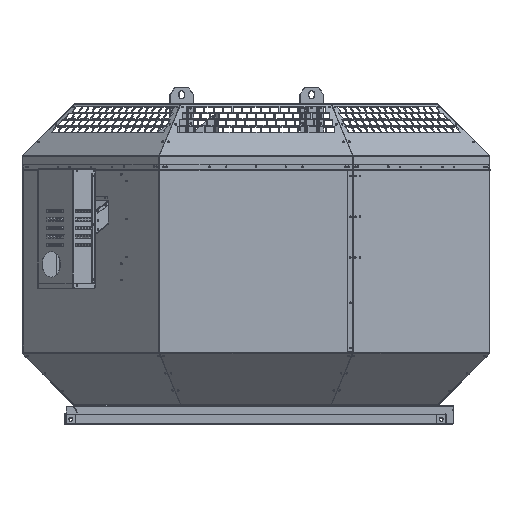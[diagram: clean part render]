
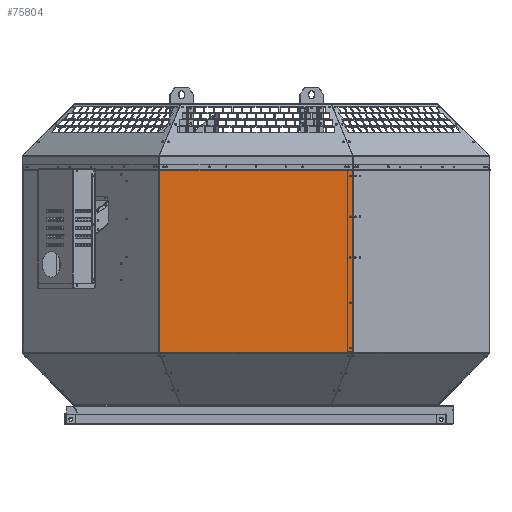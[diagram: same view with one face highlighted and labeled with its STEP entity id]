
A CAD part, top view. The second image highlights one B-rep face of the part: STEP entity #75804.
In plain terms, the highlighted planar face has unit normal (0, 0, 1).
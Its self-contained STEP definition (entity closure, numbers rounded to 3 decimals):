
#83 = DIRECTION ( 'NONE',  ( 0., 0., 1. ) ) ;
#692 = VECTOR ( 'NONE', #144474, 1000. ) ;
#3661 = LINE ( 'NONE', #111978, #35813 ) ;
#3892 = CARTESIAN_POINT ( 'NONE',  ( -233.948, 604.421, 568. ) ) ;
#4376 = EDGE_LOOP ( 'NONE', ( #25615, #13253 ) ) ;
#4803 = CIRCLE ( 'NONE', #145803, 2.1 ) ;
#6411 = FACE_BOUND ( 'NONE', #109905, .T. ) ;
#6716 = CARTESIAN_POINT ( 'NONE',  ( 228.859, 268.211, 568. ) ) ;
#7561 = DIRECTION ( 'NONE',  ( 0., 0., 1. ) ) ;
#8299 = VECTOR ( 'NONE', #109413, 1000. ) ;
#8872 = AXIS2_PLACEMENT_3D ( 'NONE', #110752, #38456, #122912 ) ;
#9408 = ORIENTED_EDGE ( 'NONE', *, *, #65530, .F. ) ;
#9708 = EDGE_LOOP ( 'NONE', ( #58290, #72708 ) ) ;
#10545 = CARTESIAN_POINT ( 'NONE',  ( 234.859, 148.421, 568. ) ) ;
#10885 = LINE ( 'NONE', #10545, #31606 ) ;
#11367 = VECTOR ( 'NONE', #125348, 1000. ) ;
#11505 = VERTEX_POINT ( 'NONE', #52681 ) ;
#12292 = CARTESIAN_POINT ( 'NONE',  ( 228.859, 158.421, 568. ) ) ;
#13253 = ORIENTED_EDGE ( 'NONE', *, *, #40362, .F. ) ;
#13587 = CARTESIAN_POINT ( 'NONE',  ( 234.859, 148.421, 568. ) ) ;
#14664 = ORIENTED_EDGE ( 'NONE', *, *, #132953, .F. ) ;
#15041 = CARTESIAN_POINT ( 'NONE',  ( 226.759, 158.421, 568. ) ) ;
#16184 = CIRCLE ( 'NONE', #76214, 2.1 ) ;
#17633 = EDGE_CURVE ( 'NONE', #100817, #46520, #35901, .T. ) ;
#22342 = CARTESIAN_POINT ( 'NONE',  ( -233.498, 590.421, 568. ) ) ;
#23972 = EDGE_LOOP ( 'NONE', ( #124236, #141816 ) ) ;
#25615 = ORIENTED_EDGE ( 'NONE', *, *, #120585, .F. ) ;
#26465 = CIRCLE ( 'NONE', #72974, 2.1 ) ;
#27049 = EDGE_CURVE ( 'NONE', #49948, #104010, #26465, .T. ) ;
#27836 = DIRECTION ( 'NONE',  ( 0., 0., 1. ) ) ;
#27947 = EDGE_CURVE ( 'NONE', #55866, #117818, #72796, .T. ) ;
#28156 = DIRECTION ( 'NONE',  ( 1., 0., 0. ) ) ;
#28438 = CARTESIAN_POINT ( 'NONE',  ( -233.948, 148.421, 568. ) ) ;
#28467 = EDGE_CURVE ( 'NONE', #31628, #41895, #31142, .T. ) ;
#29176 = VERTEX_POINT ( 'NONE', #15041 ) ;
#29282 = DIRECTION ( 'NONE',  ( 0., 0., 1. ) ) ;
#29784 = CIRCLE ( 'NONE', #35388, 2.1 ) ;
#30361 = EDGE_CURVE ( 'NONE', #29176, #88787, #37928, .T. ) ;
#30378 = VERTEX_POINT ( 'NONE', #120425 ) ;
#30529 = ORIENTED_EDGE ( 'NONE', *, *, #17633, .T. ) ;
#30983 = FACE_BOUND ( 'NONE', #138601, .T. ) ;
#31142 = CIRCLE ( 'NONE', #31556, 2.1 ) ;
#31556 = AXIS2_PLACEMENT_3D ( 'NONE', #100099, #27836, #124426 ) ;
#31606 = VECTOR ( 'NONE', #83309, 1000. ) ;
#31628 = VERTEX_POINT ( 'NONE', #32053 ) ;
#32053 = CARTESIAN_POINT ( 'NONE',  ( 226.759, 576.201, 568. ) ) ;
#35330 = DIRECTION ( 'NONE',  ( 1., 0., 0. ) ) ;
#35388 = AXIS2_PLACEMENT_3D ( 'NONE', #44950, #129445, #57137 ) ;
#35813 = VECTOR ( 'NONE', #51856, 1000. ) ;
#35901 = LINE ( 'NONE', #3892, #11367 ) ;
#37285 = EDGE_CURVE ( 'NONE', #144487, #100817, #96999, .T. ) ;
#37928 = CIRCLE ( 'NONE', #95331, 2.1 ) ;
#38456 = DIRECTION ( 'NONE',  ( 0., 0., 1. ) ) ;
#40362 = EDGE_CURVE ( 'NONE', #155794, #30378, #105919, .T. ) ;
#40387 = LINE ( 'NONE', #60926, #8299 ) ;
#41146 = VERTEX_POINT ( 'NONE', #118910 ) ;
#41307 = CARTESIAN_POINT ( 'NONE',  ( 228.859, 576.201, 568. ) ) ;
#41895 = VERTEX_POINT ( 'NONE', #121765 ) ;
#43451 = PLANE ( 'NONE',  #129401 ) ;
#43672 = EDGE_CURVE ( 'NONE', #117818, #55866, #4803, .T. ) ;
#44950 = CARTESIAN_POINT ( 'NONE',  ( 228.859, 378.001, 568. ) ) ;
#46057 = ORIENTED_EDGE ( 'NONE', *, *, #96294, .T. ) ;
#46520 = VERTEX_POINT ( 'NONE', #28438 ) ;
#47763 = DIRECTION ( 'NONE',  ( 0., 0., 1. ) ) ;
#48412 = CARTESIAN_POINT ( 'NONE',  ( 228.859, 158.421, 568. ) ) ;
#49948 = VERTEX_POINT ( 'NONE', #74335 ) ;
#50737 = AXIS2_PLACEMENT_3D ( 'NONE', #80449, #118935, #152860 ) ;
#51188 = EDGE_CURVE ( 'NONE', #41895, #31628, #76665, .T. ) ;
#51856 = DIRECTION ( 'NONE',  ( 0., -1., 0. ) ) ;
#51909 = CARTESIAN_POINT ( 'NONE',  ( 234.859, 590.428, 568. ) ) ;
#52681 = CARTESIAN_POINT ( 'NONE',  ( -233.498, 590.428, 568. ) ) ;
#55866 = VERTEX_POINT ( 'NONE', #155896 ) ;
#57137 = DIRECTION ( 'NONE',  ( 1., 0., 0. ) ) ;
#57232 = AXIS2_PLACEMENT_3D ( 'NONE', #41307, #47763, #35330 ) ;
#57282 = ORIENTED_EDGE ( 'NONE', *, *, #27049, .F. ) ;
#58290 = ORIENTED_EDGE ( 'NONE', *, *, #27947, .F. ) ;
#59060 = CARTESIAN_POINT ( 'NONE',  ( 226.759, 378.001, 568. ) ) ;
#60553 = DIRECTION ( 'NONE',  ( 1., 0., 0. ) ) ;
#60643 = CARTESIAN_POINT ( 'NONE',  ( 226.759, 477.101, 568. ) ) ;
#60926 = CARTESIAN_POINT ( 'NONE',  ( -233.498, 604.421, 568. ) ) ;
#63066 = FACE_BOUND ( 'NONE', #4376, .T. ) ;
#65530 = EDGE_CURVE ( 'NONE', #41146, #146210, #3661, .T. ) ;
#72666 = CARTESIAN_POINT ( 'NONE',  ( -233.498, 590.421, 568. ) ) ;
#72708 = ORIENTED_EDGE ( 'NONE', *, *, #43672, .F. ) ;
#72796 = CIRCLE ( 'NONE', #50737, 2.1 ) ;
#72974 = AXIS2_PLACEMENT_3D ( 'NONE', #117379, #102992, #137561 ) ;
#74335 = CARTESIAN_POINT ( 'NONE',  ( 230.959, 477.101, 568. ) ) ;
#74924 = EDGE_CURVE ( 'NONE', #104010, #49948, #82265, .T. ) ;
#75264 = CARTESIAN_POINT ( 'NONE',  ( 228.859, 378.001, 568. ) ) ;
#75804 = ADVANCED_FACE ( 'NONE', ( #95148, #98965, #6411, #63066, #30983, #155715 ), #43451, .T. ) ;
#76214 = AXIS2_PLACEMENT_3D ( 'NONE', #48412, #132885, #60553 ) ;
#76665 = CIRCLE ( 'NONE', #57232, 2.1 ) ;
#80449 = CARTESIAN_POINT ( 'NONE',  ( 228.859, 268.211, 568. ) ) ;
#82154 = ORIENTED_EDGE ( 'NONE', *, *, #129841, .F. ) ;
#82265 = CIRCLE ( 'NONE', #8872, 2.1 ) ;
#83309 = DIRECTION ( 'NONE',  ( -1., 0., 0. ) ) ;
#83862 = EDGE_CURVE ( 'NONE', #88787, #29176, #16184, .T. ) ;
#85279 = CARTESIAN_POINT ( 'NONE',  ( 226.759, 268.211, 568. ) ) ;
#88787 = VERTEX_POINT ( 'NONE', #117663 ) ;
#91463 = CARTESIAN_POINT ( 'NONE',  ( 234.859, 604.421, 568. ) ) ;
#91989 = DIRECTION ( 'NONE',  ( 1., 0., 0. ) ) ;
#95148 = FACE_BOUND ( 'NONE', #23972, .T. ) ;
#95331 = AXIS2_PLACEMENT_3D ( 'NONE', #12292, #83, #132626 ) ;
#96175 = DIRECTION ( 'NONE',  ( 0., 0., 1. ) ) ;
#96294 = EDGE_CURVE ( 'NONE', #11505, #144487, #40387, .T. ) ;
#96999 = LINE ( 'NONE', #72666, #692 ) ;
#98752 = VECTOR ( 'NONE', #28156, 1000. ) ;
#98965 = FACE_BOUND ( 'NONE', #9708, .T. ) ;
#100099 = CARTESIAN_POINT ( 'NONE',  ( 228.859, 576.201, 568. ) ) ;
#100817 = VERTEX_POINT ( 'NONE', #135364 ) ;
#102992 = DIRECTION ( 'NONE',  ( 0., 0., 1. ) ) ;
#104010 = VERTEX_POINT ( 'NONE', #60643 ) ;
#104981 = ORIENTED_EDGE ( 'NONE', *, *, #37285, .T. ) ;
#105919 = CIRCLE ( 'NONE', #155781, 2.1 ) ;
#109413 = DIRECTION ( 'NONE',  ( 0., -1., 0. ) ) ;
#109905 = EDGE_LOOP ( 'NONE', ( #57282, #127795 ) ) ;
#110752 = CARTESIAN_POINT ( 'NONE',  ( 228.859, 477.101, 568. ) ) ;
#111978 = CARTESIAN_POINT ( 'NONE',  ( 234.859, 604.421, 568. ) ) ;
#115677 = ORIENTED_EDGE ( 'NONE', *, *, #51188, .F. ) ;
#116036 = ORIENTED_EDGE ( 'NONE', *, *, #28467, .F. ) ;
#117379 = CARTESIAN_POINT ( 'NONE',  ( 228.859, 477.101, 568. ) ) ;
#117663 = CARTESIAN_POINT ( 'NONE',  ( 230.959, 158.421, 568. ) ) ;
#117818 = VERTEX_POINT ( 'NONE', #85279 ) ;
#118910 = CARTESIAN_POINT ( 'NONE',  ( 234.859, 590.428, 568. ) ) ;
#118935 = DIRECTION ( 'NONE',  ( 0., 0., 1. ) ) ;
#120425 = CARTESIAN_POINT ( 'NONE',  ( 230.959, 378.001, 568. ) ) ;
#120585 = EDGE_CURVE ( 'NONE', #30378, #155794, #29784, .T. ) ;
#120976 = DIRECTION ( 'NONE',  ( 1., 0., 0. ) ) ;
#121765 = CARTESIAN_POINT ( 'NONE',  ( 230.959, 576.201, 568. ) ) ;
#122912 = DIRECTION ( 'NONE',  ( 1., 0., 0. ) ) ;
#124236 = ORIENTED_EDGE ( 'NONE', *, *, #83862, .F. ) ;
#124426 = DIRECTION ( 'NONE',  ( 1., 0., 0. ) ) ;
#125348 = DIRECTION ( 'NONE',  ( 0., -1., 0. ) ) ;
#127795 = ORIENTED_EDGE ( 'NONE', *, *, #74924, .F. ) ;
#129401 = AXIS2_PLACEMENT_3D ( 'NONE', #91463, #7561, #91989 ) ;
#129445 = DIRECTION ( 'NONE',  ( 0., 0., 1. ) ) ;
#129841 = EDGE_CURVE ( 'NONE', #146210, #46520, #10885, .T. ) ;
#130909 = LINE ( 'NONE', #51909, #98752 ) ;
#132626 = DIRECTION ( 'NONE',  ( 1., 0., 0. ) ) ;
#132885 = DIRECTION ( 'NONE',  ( 0., 0., 1. ) ) ;
#132953 = EDGE_CURVE ( 'NONE', #11505, #41146, #130909, .T. ) ;
#135364 = CARTESIAN_POINT ( 'NONE',  ( -233.948, 590.421, 568. ) ) ;
#137561 = DIRECTION ( 'NONE',  ( 1., 0., 0. ) ) ;
#137606 = EDGE_LOOP ( 'NONE', ( #14664, #46057, #104981, #30529, #82154, #9408 ) ) ;
#138601 = EDGE_LOOP ( 'NONE', ( #115677, #116036 ) ) ;
#141816 = ORIENTED_EDGE ( 'NONE', *, *, #30361, .F. ) ;
#144474 = DIRECTION ( 'NONE',  ( -1., 0., 0. ) ) ;
#144487 = VERTEX_POINT ( 'NONE', #22342 ) ;
#145803 = AXIS2_PLACEMENT_3D ( 'NONE', #6716, #29282, #150869 ) ;
#146210 = VERTEX_POINT ( 'NONE', #13587 ) ;
#150869 = DIRECTION ( 'NONE',  ( 1., 0., 0. ) ) ;
#152860 = DIRECTION ( 'NONE',  ( 1., 0., 0. ) ) ;
#155715 = FACE_OUTER_BOUND ( 'NONE', #137606, .T. ) ;
#155781 = AXIS2_PLACEMENT_3D ( 'NONE', #75264, #96175, #120976 ) ;
#155794 = VERTEX_POINT ( 'NONE', #59060 ) ;
#155896 = CARTESIAN_POINT ( 'NONE',  ( 230.959, 268.211, 568. ) ) ;
